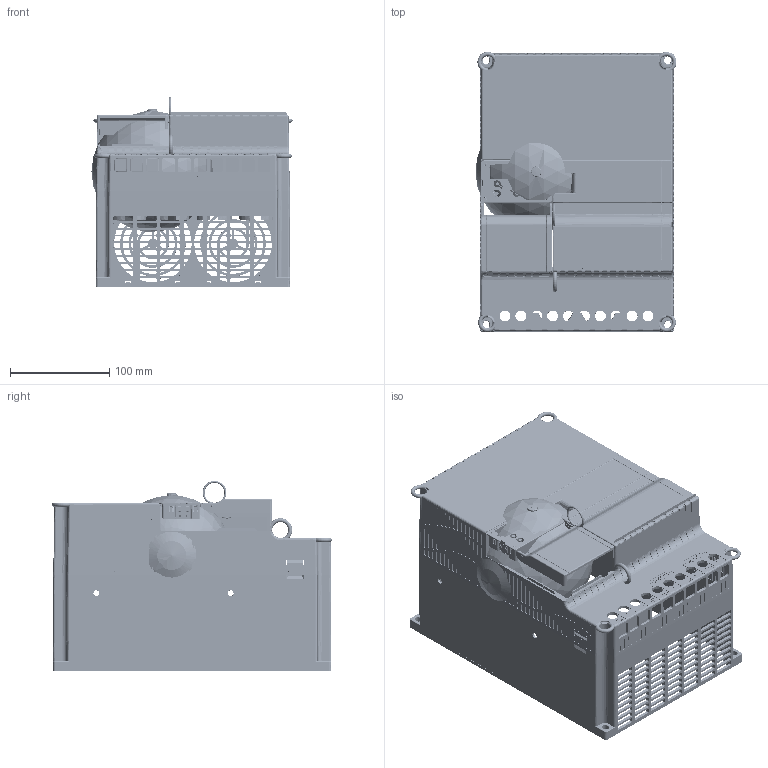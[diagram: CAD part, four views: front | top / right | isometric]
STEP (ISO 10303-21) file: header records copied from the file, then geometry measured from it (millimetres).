
FILE_DESCRIPTION((''),'2;1');
FILE_NAME('PRT0001','2020-07-25T',('PC-TR'),(''),'PRO/ENGINEER BY PARAMETRIC TECHNOLOGY CORPORATION, 2010280','PRO/ENGINEER BY PARAMETRIC TECHNOLOGY CORPORATION, 2010280','');
FILE_SCHEMA(('CONFIG_CONTROL_DESIGN'));
Products named in the file (1): PRT0001
Bounding box: 202.36 x 281.8 x 191.57 mm (x, y, z)
Surface area: 585344.2 mm2 (no closed solid volume)
Topology: 0 solids, 0 shells, 5700 faces, 32568 edges, 32504 vertices
Faces by surface type: bspline 5577, torus 77, sphere 46
Entity records: 481745 total; most frequent: CARTESIAN_POINT 194138, DIRECTION 42912, TRIMMED_CURVE 40194, VECTOR 37718, LINE 37718, DEFINITIONAL_REPRESENTATION 32474, PCURVE 32474, COMPOSITE_CURVE_SEGMENT 32474
